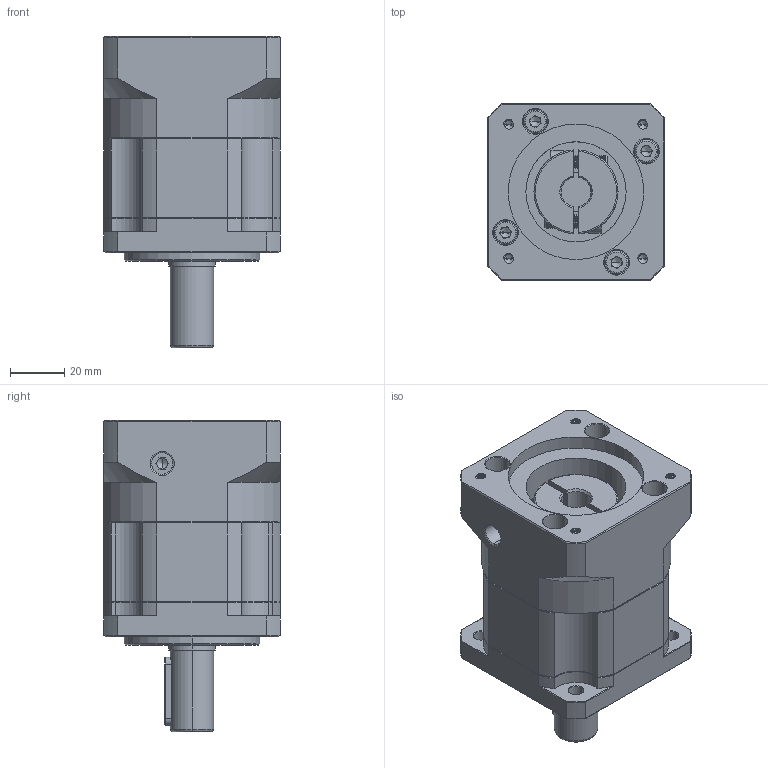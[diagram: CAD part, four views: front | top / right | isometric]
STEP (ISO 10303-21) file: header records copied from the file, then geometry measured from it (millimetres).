
FILE_DESCRIPTION (( 'STEP AP214' ), '1' );
FILE_NAME ('ZB60-D16-L1-11-50-70-M4.STEP', '2022-04-17T07:29:47', ( '' ), ( 'Microsoft' ), 'SwSTEP 2.0', 'SolidWorks 2016', '' );
FILE_SCHEMA (( 'AUTOMOTIVE_DESIGN' ));
Length unit declared in the file: millimetre
Products named in the file (1): ZB60-D16-L1-11-50-70-M4
Bounding box: 65 x 65 x 115 mm (x, y, z)
Volume: 270901.4 mm3; surface area: 54719.9 mm2
Topology: 6 solids, 6 shells, 1874 faces, 4977 edges, 3186 vertices
Faces by surface type: plane 879, cylinder 381, bspline 299, cone 281, torus 34
Entity records: 98839 total; most frequent: CARTESIAN_POINT 34076, ORIENTED_EDGE 9894, DIRECTION 8097, EDGE_CURVE 4947, VERTEX_POINT 3186, VECTOR 3011, LINE 3011, AXIS2_PLACEMENT_3D 2543
